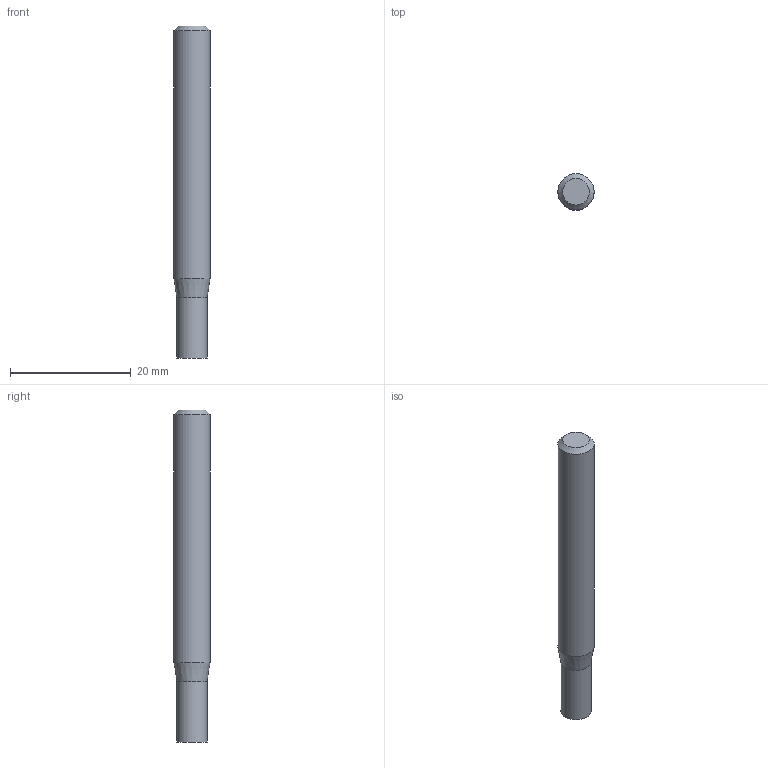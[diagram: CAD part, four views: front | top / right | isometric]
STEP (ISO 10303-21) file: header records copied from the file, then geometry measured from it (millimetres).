
FILE_DESCRIPTION((''),'2;1');
FILE_NAME('C:\Users\nsx150\AppData\Local\Temp\Mastercam 2021\QTW1OOEEGF\TEMP.step','2021-04-08T10:36:55',(''),(''),'STEP Write','Mastercam 2021 ... CNC Software, Inc.','');
FILE_SCHEMA(('AUTOMOTIVE_DESIGN'));
Length unit declared in the file: millimetre
Products named in the file (1): None
Bounding box: 6 x 6 x 55 mm (x, y, z)
Volume: 1449.1 mm3; surface area: 1078.5 mm2
Topology: 2 solids, 2 shells, 8 faces, 10 edges, 6 vertices
Faces by surface type: plane 4, cylinder 2, cone 2
Full cylindrical faces by diameter (mm): 5 x1, 6 x1
Entity records: 190 total; most frequent: DIRECTION 32, CARTESIAN_POINT 22, AXIS2_PLACEMENT_3D 16, ORIENTED_EDGE 12, EDGE_LOOP 12, STYLED_ITEM 11, ADVANCED_FACE 8, VERTEX_POINT 6
